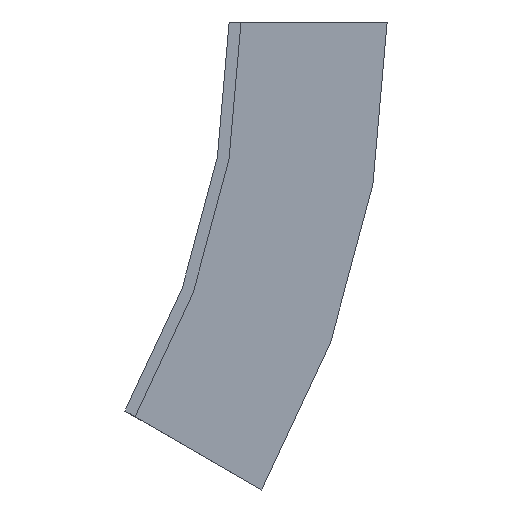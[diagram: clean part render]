
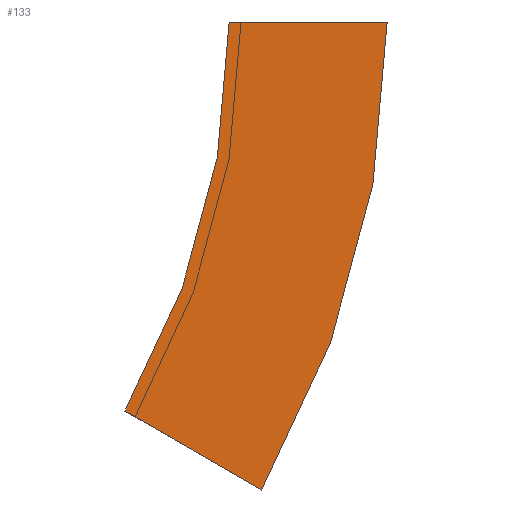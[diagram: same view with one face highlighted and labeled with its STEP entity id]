
A CAD part, left-side view. The second image highlights one B-rep face of the part: STEP entity #133.
In plain terms, the highlighted planar face has unit normal (-1, 0, 0).
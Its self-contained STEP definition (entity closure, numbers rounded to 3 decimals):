
#1 = LINE ( 'NONE', #564, #584 ) ;
#7 = CARTESIAN_POINT ( 'NONE',  ( -303.5, 13.196, -49.25 ) ) ;
#13 = CARTESIAN_POINT ( 'NONE',  ( -303.5, 98.5, 0. ) ) ;
#18 = DIRECTION ( 'NONE',  ( 0., 0., 1. ) ) ;
#42 = EDGE_CURVE ( 'NONE', #593, #445, #140, .T. ) ;
#49 = CARTESIAN_POINT ( 'NONE',  ( -303.5, -4.124, -59.25 ) ) ;
#80 = ORIENTED_EDGE ( 'NONE', *, *, #285, .F. ) ;
#86 = CARTESIAN_POINT ( 'NONE',  ( -303.5, 0., 0. ) ) ;
#106 = CARTESIAN_POINT ( 'NONE',  ( -303.5, 0., 0. ) ) ;
#133 = ADVANCED_FACE ( 'NONE', ( #334 ), #294, .T. ) ;
#140 = CIRCLE ( 'NONE', #220, 118.5 ) ;
#150 = CARTESIAN_POINT ( 'NONE',  ( -303.5, 98.5, 0. ) ) ;
#199 = CARTESIAN_POINT ( 'NONE',  ( -303.5, -20., 0. ) ) ;
#220 = AXIS2_PLACEMENT_3D ( 'NONE', #150, #521, #283 ) ;
#221 = AXIS2_PLACEMENT_3D ( 'NONE', #13, #344, #569 ) ;
#223 = ORIENTED_EDGE ( 'NONE', *, *, #281, .F. ) ;
#247 = CIRCLE ( 'NONE', #308, 98.5 ) ;
#272 = LINE ( 'NONE', #86, #524 ) ;
#281 = EDGE_CURVE ( 'NONE', #445, #482, #1, .T. ) ;
#283 = DIRECTION ( 'NONE',  ( 0., 0., -1. ) ) ;
#285 = EDGE_CURVE ( 'NONE', #545, #593, #272, .T. ) ;
#294 = PLANE ( 'NONE',  #221 ) ;
#295 = DIRECTION ( 'NONE',  ( -1., 0., 0. ) ) ;
#300 = ORIENTED_EDGE ( 'NONE', *, *, #42, .F. ) ;
#308 = AXIS2_PLACEMENT_3D ( 'NONE', #394, #295, #18 ) ;
#321 = DIRECTION ( 'NONE',  ( 0., -1., 0. ) ) ;
#334 = FACE_OUTER_BOUND ( 'NONE', #495, .T. ) ;
#344 = DIRECTION ( 'NONE',  ( -1., 0., 0. ) ) ;
#394 = CARTESIAN_POINT ( 'NONE',  ( -303.5, 98.5, 0. ) ) ;
#445 = VERTEX_POINT ( 'NONE', #49 ) ;
#482 = VERTEX_POINT ( 'NONE', #7 ) ;
#495 = EDGE_LOOP ( 'NONE', ( #223, #300, #80, #595 ) ) ;
#508 = DIRECTION ( 'NONE',  ( 0., 0.866, 0.5 ) ) ;
#521 = DIRECTION ( 'NONE',  ( 1., 0., 0. ) ) ;
#524 = VECTOR ( 'NONE', #321, 1000. ) ;
#545 = VERTEX_POINT ( 'NONE', #106 ) ;
#552 = EDGE_CURVE ( 'NONE', #482, #545, #247, .T. ) ;
#564 = CARTESIAN_POINT ( 'NONE',  ( -303.5, -4.124, -59.25 ) ) ;
#569 = DIRECTION ( 'NONE',  ( 0., 0., 1. ) ) ;
#584 = VECTOR ( 'NONE', #508, 1000. ) ;
#593 = VERTEX_POINT ( 'NONE', #199 ) ;
#595 = ORIENTED_EDGE ( 'NONE', *, *, #552, .F. ) ;
